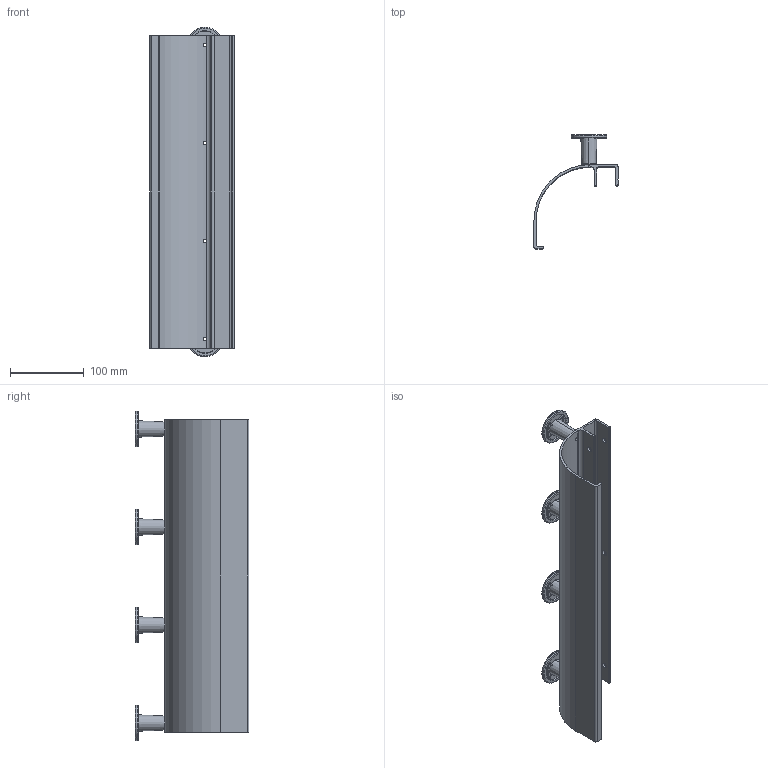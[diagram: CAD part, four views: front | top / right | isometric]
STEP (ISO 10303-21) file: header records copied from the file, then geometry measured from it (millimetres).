
FILE_DESCRIPTION (( 'STEP AP203' ), '1' );
FILE_NAME ('lrd18w.STEP', '2019-01-10T19:02:47', ( '' ), ( '' ), 'SwSTEP 2.0', 'SolidWorks 2016', '' );
FILE_SCHEMA (( 'CONFIG_CONTROL_DESIGN' ));
Length unit declared in the file: inch
Products named in the file (3): 89170366; 89170352; lrd18w
Assembly tree (5 placements, depth 2):
  lrd18w
    89170366
    89170352  x4
Bounding box: 114.3 x 154.94 x 448.31 mm (x, y, z)
Volume: 385846 mm3; surface area: 248659.4 mm2
Topology: 5 solids, 5 shells, 669 faces, 1643 edges, 914 vertices
Faces by surface type: cylinder 180, torus 140, bspline 128, plane 121, sphere 64, cone 36
Entity records: 8732 total; most frequent: CARTESIAN_POINT 2585, ORIENTED_EDGE 1280, DIRECTION 1184, EDGE_CURVE 640, AXIS2_PLACEMENT_3D 485, VERTEX_POINT 389, CIRCLE 266, EDGE_LOOP 257
